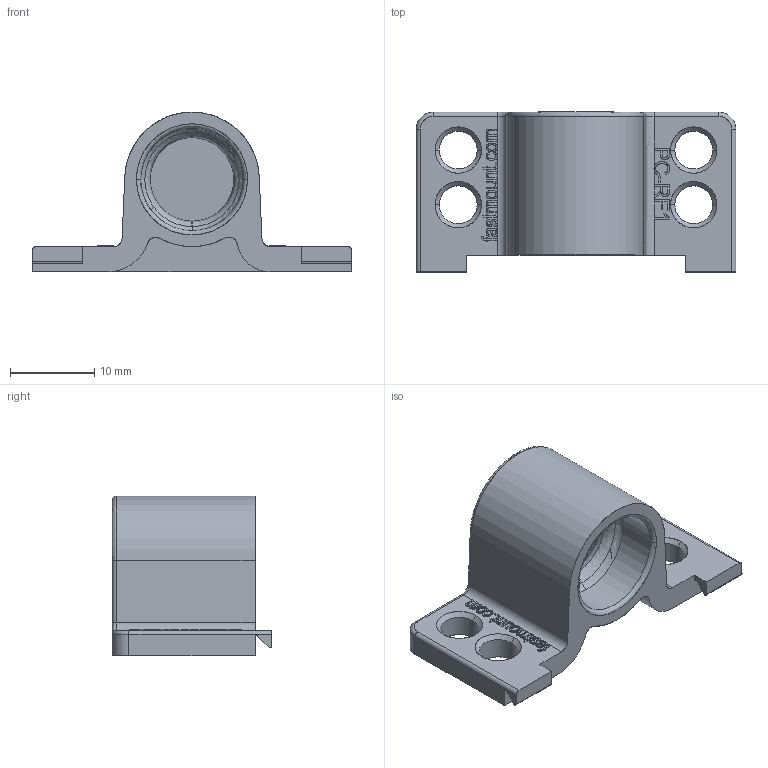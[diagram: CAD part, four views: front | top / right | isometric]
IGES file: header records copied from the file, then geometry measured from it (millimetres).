
Start section: SolidWorks IGES file using analytic representation for surfaces
Global section: file name: D:\Blender\Clients\FAS - Fastmount\FAS000 - General\Customer files\Clip Geometry\PC - Standard Range\IGES\PC-RF1.IGS; native system: SolidWorks 2018; preprocessor: SolidWorks 2018; author: Evan; date: 190204.094136; units: millimetre
Bounding box: 38 x 19 x 19 mm (x, y, z)
Surface area: 3249.8 mm2 (no closed solid volume)
Topology: 0 solids, 0 shells, 348 faces, 2922 edges, 2922 vertices
Faces by surface type: bspline 302, revolution 46
